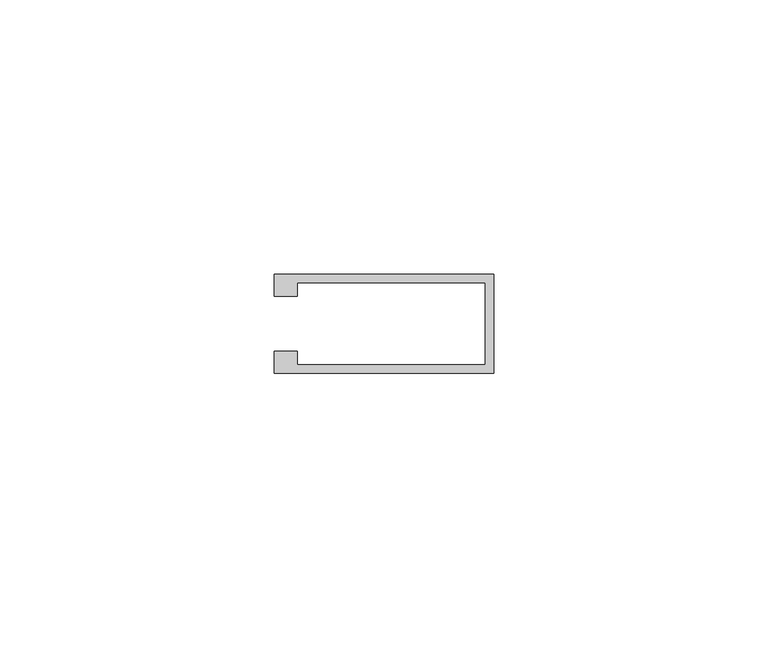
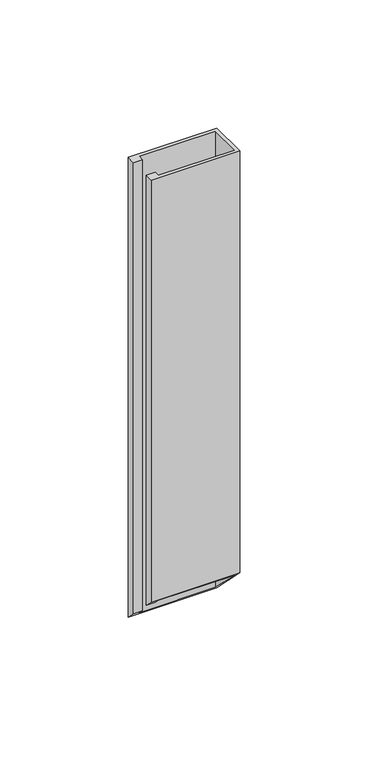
"""IFC4 building model written with IfcOpenShell, lengths in millimetres: member geometry, Прямоугольный импост : 11-AMG-1-Профиль 40Х18 Верх П."""

from ifc_helpers import new_model, si_unit, origin, place, context, project, spatial, faceted_brep, source, transform, mapped, element, save


def member_62bc45fa(model_context):
    return source(origin(), model_context, "Body", "Brep", [
        faceted_brep([(-40.0, 5.0, 0.0), (-35.8552307, 5.0, 0.0), (-35.8552307, 7.5, 0.0), (-1.5, 7.5, 0.0), (-1.5, -7.5, 0.0), (-35.8552307, -7.5, 0.0), (-35.8552307, -5.0, 0.0), (-40.0, -5.0, 0.0), (-40.0, -9.0, 0.0), (0.0, -9.0, 0.0), (0.0, 9.0, 0.0), (-40.0, 9.0, 0.0), (-40.0, 5.0, -215.0), (-35.8552307, 5.0, -215.0), (-35.8552307, 7.5, -217.5), (-1.5, 7.5, -217.5), (-1.5, -7.5, -202.5), (-35.8552307, -7.5, -202.5), (-35.8552307, -5.0, -205.0), (-40.0, -5.0, -205.0), (-40.0, -9.0, -201.0), (0.0, -9.0, -201.0), (0.0, 9.0, -219.0), (-40.0, 9.0, -219.0)], [[[0, 1, 2, 3, 4, 5, 6, 7, 8, 9, 10, 11]], [[1, 0, 12, 13]], [[2, 1, 13, 14]], [[3, 2, 14, 15]], [[4, 3, 15, 16]], [[5, 4, 16, 17]], [[6, 5, 17, 18]], [[7, 6, 18, 19]], [[8, 7, 19, 20]], [[9, 8, 20, 21]], [[10, 9, 21, 22]], [[11, 10, 22, 23]], [[0, 11, 23, 12]], [[12, 23, 22, 21, 20, 19, 18, 17, 16, 15, 14, 13]]]),
    ])


if __name__ == "__main__":
    model = new_model("IFC4")
    model_context = context("Model", 3, world=origin())
    ifc_project = project(units=[si_unit("LENGTHUNIT", "METRE", prefix="MILLI")], contexts=[model_context])
    site = spatial("IfcSite", under=ifc_project)
    building = spatial("IfcBuilding", under=site)
    placement = place(None, origin())
    member_shape = member_62bc45fa(model_context)
    element("IfcMember", 1, ObjectType="Прямоугольный импост : 11-AMG-1-Профиль 40Х18 Верх П", at=placement, inside=building, context=model_context, shape_type="MappedRepresentation", body=[
        mapped(member_shape, transform((0.0, 0.0, 0.0), x_axis=(1.0, 0.0, 0.0), y_axis=(0.0, 1.0, 0.0), z_axis=(0.0, 0.0, 1.0))),
    ])
    save(model, "model.ifc")
